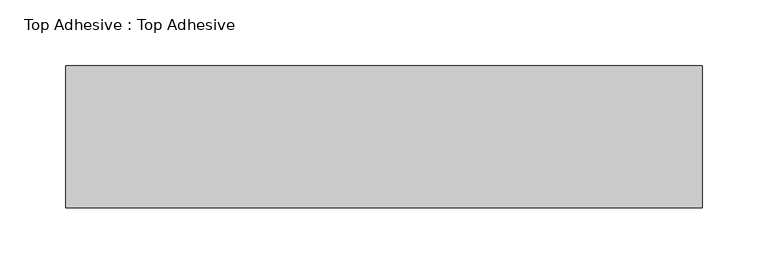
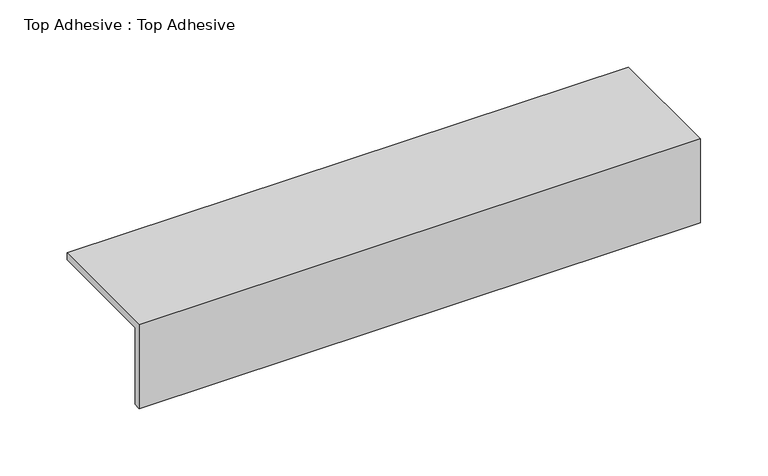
"""IFC4 building model written with IfcOpenShell, lengths in millimetres: proxy geometry, Top Adhesive : Top Adhesive."""

from ifc_helpers import new_model, si_unit, frame, origin, place, context, project, spatial, polyline, outline, extrude, source, transform, mapped, element, save


def top_adhesive_top_adhesive_2fb88969(model_context):
    return source(origin(), model_context, "Body", "SweptSolid", [
        extrude(outline(polyline([(637.1566297, -85.725), (630.8066297, -85.725), (630.8066297, -9.525), (738.7566297, -9.525), (738.7566297, -15.875), (637.1566297, -15.875), (637.1566297, -85.725)])), frame((26615.3789273, 0.0, 0.0), z_axis=(1.0, 0.0, 0.0), x_axis=(0.0, 1.0, 0.0)), (0.0, 0.0, 1.0), 483.39375),
    ])


if __name__ == "__main__":
    model = new_model("IFC4")
    model_context = context("Model", 3, world=origin())
    ifc_project = project(units=[si_unit("LENGTHUNIT", "METRE", prefix="MILLI")], contexts=[model_context])
    site = spatial("IfcSite", under=ifc_project)
    building = spatial("IfcBuilding", under=site)
    placement = place(None, origin())
    top_adhesive_top_adhesive_shape = top_adhesive_top_adhesive_2fb88969(model_context)
    element("IfcBuildingElementProxy", 1, Name="Top Adhesive : Top Adhesive", ObjectType="Top Adhesive : Top Adhesive", at=placement, inside=building, context=model_context, shape_type="MappedRepresentation", body=[
        mapped(top_adhesive_top_adhesive_shape, transform((0.0, 0.0, 0.0), x_axis=(1.0, 0.0, 0.0), y_axis=(0.0, 1.0, 0.0), z_axis=(0.0, 0.0, 1.0))),
    ])
    save(model, "model.ifc")
